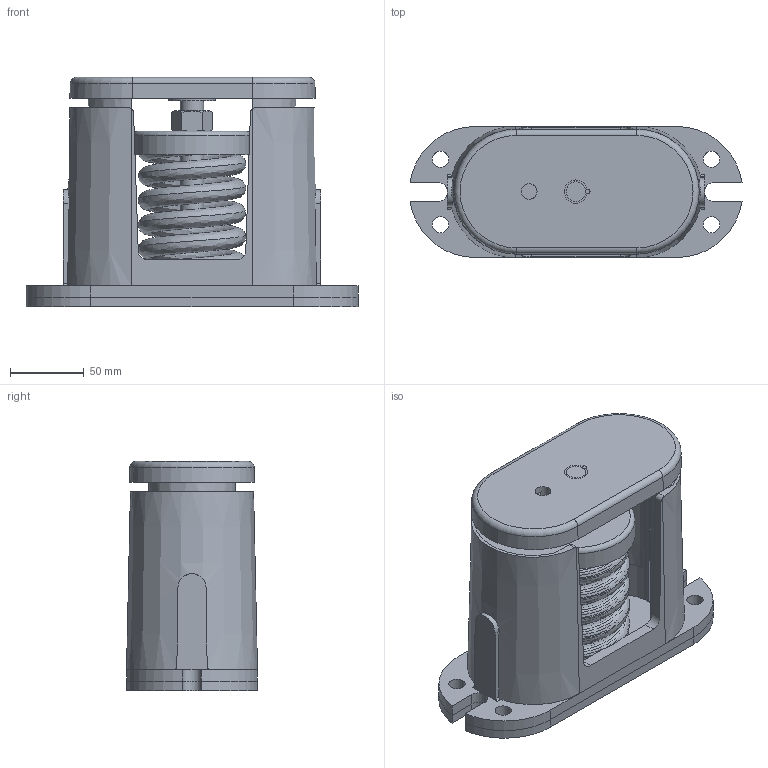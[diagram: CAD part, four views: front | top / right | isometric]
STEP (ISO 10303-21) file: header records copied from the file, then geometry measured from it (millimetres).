
FILE_DESCRIPTION(/* description */ (''),/* implementation_level */ '2;1');
FILE_NAME(/* name */ 'C:\001_Work\Designs\C MOUNTS\CI-C, C2\CI-C-2935.stp',/* time_stamp */ '2015-12-07T12:37:59-05:00',/* author */ ('rramoutar'),/* organization */ ('Mason Industries Inc.'),/* preprocessor_version */ 'ST-DEVELOPER v15.6',/* originating_system */ 'Autodesk Inventor 2015',/* authorisation */ '');
FILE_SCHEMA (('CONFIG_CONTROL_DESIGN'));
Length unit declared in the file: inch
Products named in the file (1): CI-C-2935
Bounding box: 225.43 x 88.9 x 155.57 mm (x, y, z)
Volume: 842990.4 mm3; surface area: 299292.4 mm2
Topology: 1 solids, 2 shells, 217 faces, 583 edges, 375 vertices
Faces by surface type: plane 108, cylinder 59, cone 24, bspline 22, torus 4
Full cylindrical faces by diameter (mm): 10.592 x1, 11.112 x8, 15.875 x2, 16.669 x1, 25.4 x2, 31.75 x1, 73.819 x1, 79.894 x1
Entity records: 16846 total; most frequent: CARTESIAN_POINT 11360, ORIENTED_EDGE 1108, DIRECTION 1045, EDGE_CURVE 554, AXIS2_PLACEMENT_3D 394, VERTEX_POINT 369, EDGE_LOOP 265, LINE 257
